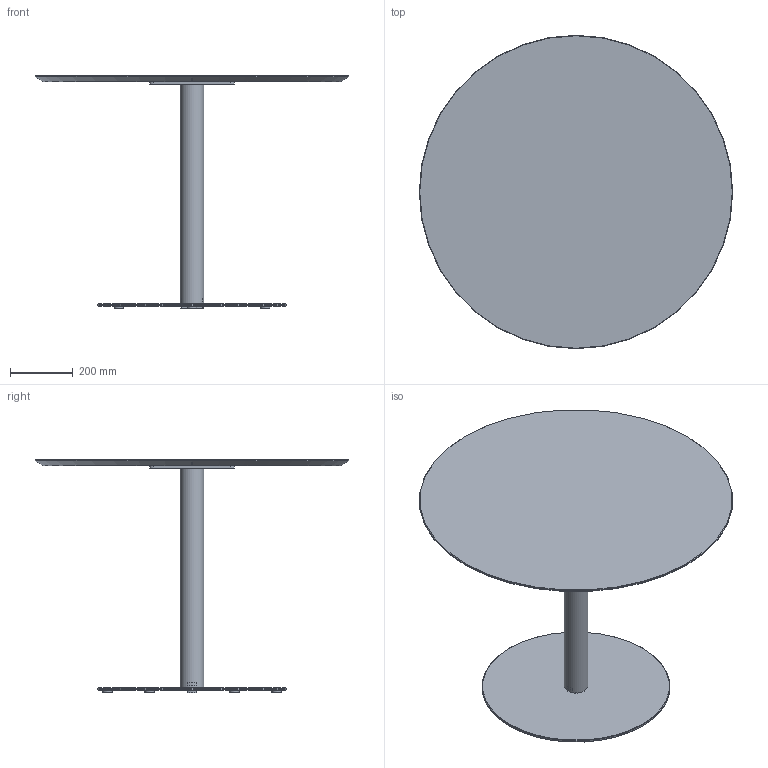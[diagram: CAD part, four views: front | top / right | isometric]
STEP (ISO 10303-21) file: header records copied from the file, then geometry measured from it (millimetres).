
FILE_DESCRIPTION( ('This file contains a STEP AP42 implementation' ,'as created by ZW3D STEP Interface translator.') ,'2;1' );
FILE_NAME( 'Henri - B_Rond - F1 - M5 - 1000 x 1000 x 750.stp' ,'24 912.151925', (''), ('ZWCAD Software Co.'), 'Version 1.0', 'ZW3D to STEP translator', '' );
FILE_SCHEMA(('AUTOMOTIVE_DESIGN { 1 0 10303 214 1 1 1 1 }'));
Length unit declared in the file: millimetre
Products named in the file (14): 0; PIED BISTROT PARAMETRIQUE_; COLONNE ACIER Ø76 V.02_; TUB-D076-02_; PLA-R76B-01_; CROIX ACIER 370 V.02_; CRX-X370-02_; SOCLE ACIER C Ø600 V.02_; SCL-D600-02_; PLA-R30A-01_; PLA-R30A-01; WUERTH 0276063020 Euro-screw 6.3x2 Verzinkt_; PLATEAU BISTROT PARAMETRIQUE_; insert_m6_13_
Assembly tree (24 placements, depth 3):
  0
  PIED BISTROT PARAMETRIQUE_
    COLONNE ACIER Ø76 V.02_
      TUB-D076-02_
      PLA-R76B-01_  x2
    CROIX ACIER 370 V.02_
      CRX-X370-02_
    SOCLE ACIER C Ø600 V.02_
      SCL-D600-02_
      PLA-R30A-01_
      PLA-R30A-01  x5
    WUERTH 0276063020 Euro-screw 6.3x2 Verzinkt_
    PLATEAU BISTROT PARAMETRIQUE_
      insert_m6_13_  x8
Bounding box: 1000 x 1000 x 744 mm (x, y, z)
Volume: 18322191.7 mm3; surface area: 2701983.3 mm2
Topology: 21 solids, 21 shells, 524 faces, 1273 edges, 802 vertices
Faces by surface type: plane 254, bspline 121, cylinder 99, cone 49, torus 1
Full cylindrical faces by diameter (mm): 4.88 x1, 6 x8, 6.3 x1, 8 x47, 12 x2, 14 x2, 30 x6, 72 x1, 76 x1, 600 x1
Entity records: 11734 total; most frequent: CARTESIAN_POINT 3302, ORIENTED_EDGE 1526, DIRECTION 1424, EDGE_CURVE 763, VERTEX_POINT 490, VECTOR 476, LINE 476, AXIS2_PLACEMENT_3D 474
